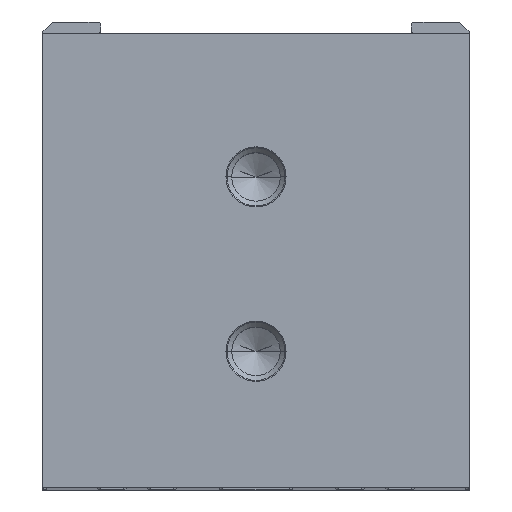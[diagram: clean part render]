
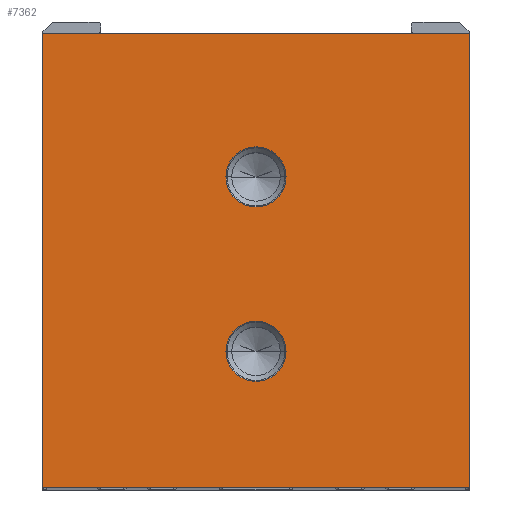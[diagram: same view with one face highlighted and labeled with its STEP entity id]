
A CAD part, top view. The second image highlights one B-rep face of the part: STEP entity #7362.
In plain terms, the highlighted planar face has unit normal (0, 0, 1).
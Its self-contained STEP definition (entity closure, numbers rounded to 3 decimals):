
#2564=DIRECTION('',(-1.,0.,0.));
#2565=VECTOR('',#2564,22.);
#2566=CARTESIAN_POINT('',(11.,11.402,39.));
#2567=LINE('',#2566,#2565);
#2568=DIRECTION('',(0.,1.,0.));
#2569=VECTOR('',#2568,23.407);
#2570=CARTESIAN_POINT('',(11.,-12.004,39.));
#2571=LINE('',#2570,#2569);
#2572=DIRECTION('',(1.,0.,0.));
#2573=VECTOR('',#2572,22.);
#2574=CARTESIAN_POINT('',(-11.,-12.004,39.));
#2575=LINE('',#2574,#2573);
#2576=DIRECTION('',(0.,-1.,0.));
#2577=VECTOR('',#2576,23.407);
#2578=CARTESIAN_POINT('',(-11.,11.402,39.));
#2579=LINE('',#2578,#2577);
#2580=CARTESIAN_POINT('',(0.,-4.996,39.));
#2581=DIRECTION('',(0.,0.,-1.));
#2582=DIRECTION('',(-1.,0.,0.));
#2583=AXIS2_PLACEMENT_3D('',#2580,#2581,#2582);
#2585=CARTESIAN_POINT('',(0.,-4.996,39.));
#2586=DIRECTION('',(0.,0.,-1.));
#2587=DIRECTION('',(1.,0.,0.));
#2588=AXIS2_PLACEMENT_3D('',#2585,#2586,#2587);
#2590=CARTESIAN_POINT('',(0.,4.004,39.));
#2591=DIRECTION('',(0.,0.,-1.));
#2592=DIRECTION('',(-1.,0.,0.));
#2593=AXIS2_PLACEMENT_3D('',#2590,#2591,#2592);
#2595=CARTESIAN_POINT('',(0.,4.004,39.));
#2596=DIRECTION('',(0.,0.,-1.));
#2597=DIRECTION('',(1.,0.,0.));
#2598=AXIS2_PLACEMENT_3D('',#2595,#2596,#2597);
#2928=CARTESIAN_POINT('',(-11.,11.402,39.));
#2929=CARTESIAN_POINT('',(-11.,-12.004,39.));
#2930=VERTEX_POINT('',#2928);
#2931=VERTEX_POINT('',#2929);
#2932=CARTESIAN_POINT('',(11.,-12.004,39.));
#2933=VERTEX_POINT('',#2932);
#2934=CARTESIAN_POINT('',(11.,11.402,39.));
#2935=VERTEX_POINT('',#2934);
#3738=CARTESIAN_POINT('',(-1.55,-4.996,
39.));
#3739=CARTESIAN_POINT('',(1.55,-4.996,39.));
#3740=VERTEX_POINT('',#3738);
#3741=VERTEX_POINT('',#3739);
#3746=CARTESIAN_POINT('',(-1.55,4.004,39.));
#3747=CARTESIAN_POINT('',(1.55,4.004,39.));
#3748=VERTEX_POINT('',#3746);
#3749=VERTEX_POINT('',#3747);
#7339=CARTESIAN_POINT('',(0.,0.,39.));
#7340=DIRECTION('',(0.,0.,1.));
#7341=DIRECTION('',(1.,0.,0.));
#7342=AXIS2_PLACEMENT_3D('',#7339,#7340,#7341);
#7343=PLANE('',#7342);
#7344=ORIENTED_EDGE('',*,*,#3819,.F.);
#7345=ORIENTED_EDGE('',*,*,#3914,.F.);
#7346=ORIENTED_EDGE('',*,*,#4767,.F.);
#7347=ORIENTED_EDGE('',*,*,#4067,.F.);
#7348=EDGE_LOOP('',(#7344,#7345,#7346,#7347));
#7349=FACE_OUTER_BOUND('',#7348,.F.);
#7351=ORIENTED_EDGE('',*,*,#7350,.F.);
#7353=ORIENTED_EDGE('',*,*,#7352,.F.);
#7354=EDGE_LOOP('',(#7351,#7353));
#7355=FACE_BOUND('',#7354,.F.);
#7357=ORIENTED_EDGE('',*,*,#7356,.F.);
#7359=ORIENTED_EDGE('',*,*,#7358,.F.);
#7360=EDGE_LOOP('',(#7357,#7359));
#7361=FACE_BOUND('',#7360,.F.);
#2584=CIRCLE('',#2583,1.55);
#2589=CIRCLE('',#2588,1.55);
#2594=CIRCLE('',#2593,1.55);
#2599=CIRCLE('',#2598,1.55);
#3819=EDGE_CURVE('',#2935,#2930,#2567,.T.);
#3914=EDGE_CURVE('',#2933,#2935,#2571,.T.);
#4067=EDGE_CURVE('',#2930,#2931,#2579,.T.);
#4767=EDGE_CURVE('',#2931,#2933,#2575,.T.);
#7350=EDGE_CURVE('',#3740,#3741,#2584,.T.);
#7352=EDGE_CURVE('',#3741,#3740,#2589,.T.);
#7356=EDGE_CURVE('',#3748,#3749,#2594,.T.);
#7358=EDGE_CURVE('',#3749,#3748,#2599,.T.);
#7362=ADVANCED_FACE('',(#7349,#7355,#7361),#7343,.T.);
